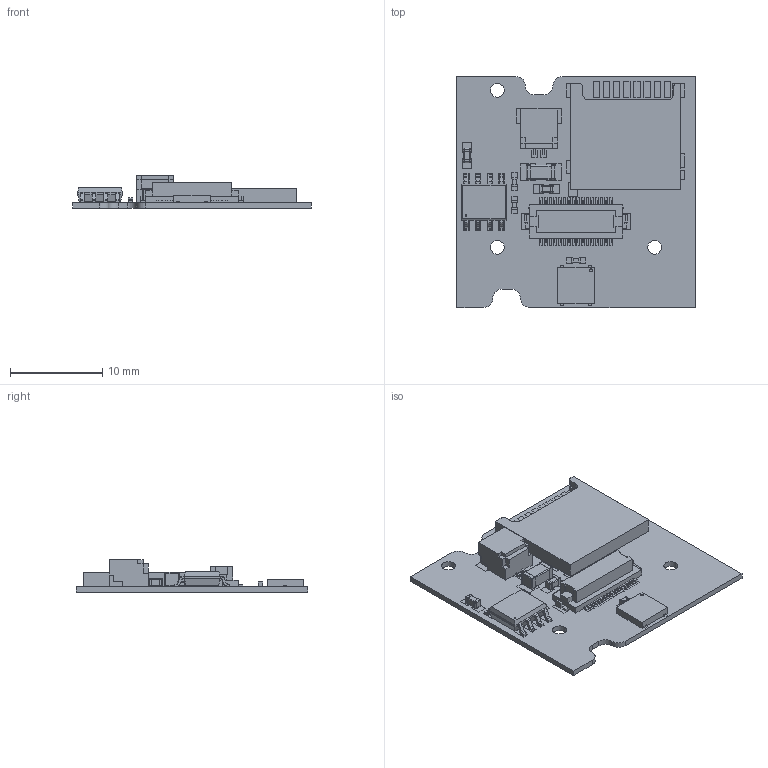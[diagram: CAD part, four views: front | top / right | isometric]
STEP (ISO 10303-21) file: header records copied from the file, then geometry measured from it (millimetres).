
FILE_DESCRIPTION(('FreeCAD Model'),'2;1');
FILE_NAME('/home/devy/MEGA/TinyCircuits/Assets/BoardsANDBoardModels_2/Shields/TinyCircuits-TinyShield-microSD_Audio-ASD2205/cad/TinyShield_SD_AUDIO_ASD2205_REV2-STEP.step','2020-07-15T14:19:17',(''),(''), 'Open CASCADE STEP processor 7.4','FreeCAD','Unknown');
FILE_SCHEMA(('AUTOMOTIVE_DESIGN { 1 0 10303 214 1 1 1 1 }'));
Products named in the file (1): TinyShield_SD_AUDIO_ASD2205_REV2-STEP
Bounding box: 25.8 x 25 x 3.5 mm (x, y, z)
Volume: 1219.1 mm3; surface area: 4687.3 mm2
Topology: 201 solids, 201 shells, 2246 faces, 6423 edges, 5657 vertices
Faces by surface type: plane 1858, cylinder 308, sphere 80
Full cylindrical faces by diameter (mm): 0.5 x2, 0.602 x4, 1.502 x6
Entity records: 163846 total; most frequent: CARTESIAN_POINT 28396, DIRECTION 21382, LINE 14150, VECTOR 14150, ORIENTED_EDGE 10254, PCURVE 10254, DEFINITIONAL_REPRESENTATION 10254, EDGE_CURVE 5127
